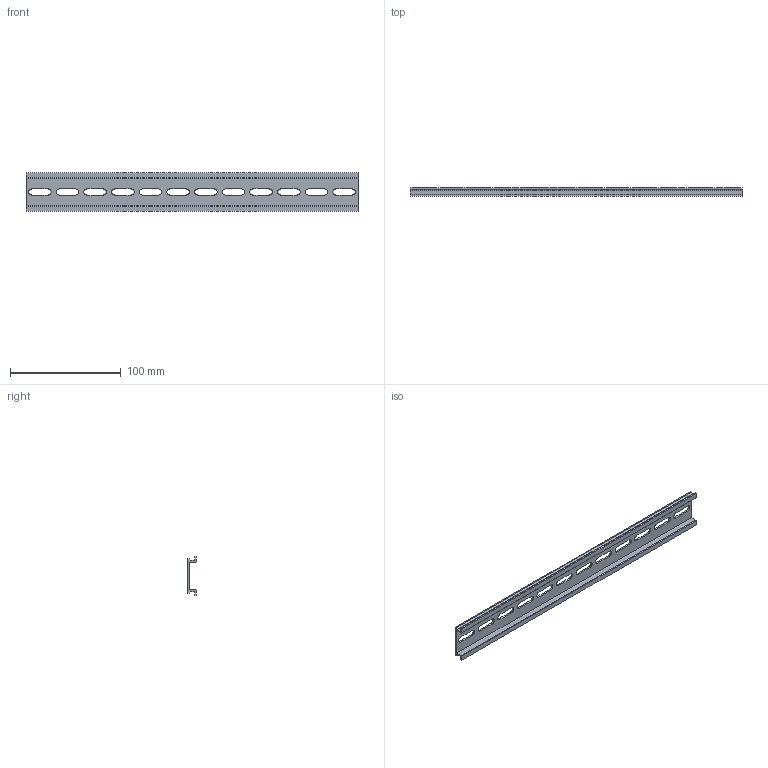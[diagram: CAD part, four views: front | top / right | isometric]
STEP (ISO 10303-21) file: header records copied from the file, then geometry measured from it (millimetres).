
FILE_DESCRIPTION( (''), '2;1');
FILE_NAME ('CVICAD02.15516.DIN-RAIL300_7383.stp','2020-09-01T14:18:21',(''),(''),'spGate 12.6.6','','');
FILE_SCHEMA (('AUTOMOTIVE_DESIGN'));
Length unit declared in the file: millimetre
Bounding box: 300 x 7.5 x 35 mm (x, y, z)
Volume: 21180 mm3; surface area: 28363.4 mm2
Topology: 1 solids, 1 shells, 68 faces, 198 edges, 132 vertices
Faces by surface type: plane 42, cylinder 26
Entity records: 3853 total; most frequent: CARTESIAN_POINT 398, ORIENTED_EDGE 396, DIRECTION 386, COLOUR_RGB 267, PRESENTATION_STYLE_ASSIGNMENT 267, STYLED_ITEM 267, EDGE_CURVE 198, DRAUGHTING_PRE_DEFINED_CURVE_FONT 198
